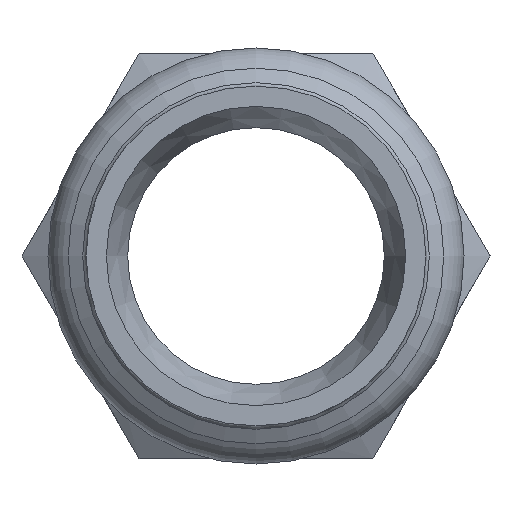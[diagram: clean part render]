
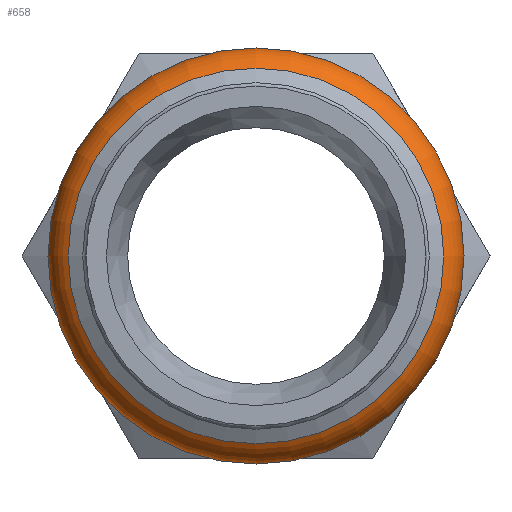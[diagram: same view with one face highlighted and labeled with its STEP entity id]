
A CAD part, left-side view. The second image highlights one B-rep face of the part: STEP entity #658.
In plain terms, the highlighted toroidal (fillet/blend) face has major radius 12.4 mm and minor radius 3 mm.
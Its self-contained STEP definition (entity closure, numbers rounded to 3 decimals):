
#424=CARTESIAN_POINT('',(-27.056,12.979,0.0));
#425=VERTEX_POINT('',#424);
#426=CARTESIAN_POINT('',(-27.056,0.,0.0));
#427=DIRECTION('',(1.0,0.0,0.0));
#428=DIRECTION('',(0.0,-1.0,0.0));
#429=AXIS2_PLACEMENT_3D('',#426,#427,#428);
#430=CIRCLE('',#429,12.979);
#431=EDGE_CURVE('',#425,#425,#430,.T.);
#568=CARTESIAN_POINT('',(-32.598,13.9,0.0));
#569=VERTEX_POINT('',#568);
#570=CARTESIAN_POINT('',(-32.598,0.,0.0));
#571=DIRECTION('',(1.0,0.0,0.0));
#572=DIRECTION('',(0.0,1.0,0.0));
#573=AXIS2_PLACEMENT_3D('',#570,#571,#572);
#574=CIRCLE('',#573,13.9);
#575=EDGE_CURVE('',#569,#569,#574,.T.);
#647=CARTESIAN_POINT('',(-30.,0.,0.0));
#648=DIRECTION('',(1.0,0.,0.0));
#649=DIRECTION('',(0.0,0.0,-1.0));
#650=AXIS2_PLACEMENT_3D('',#647,#648,#649);
#651=TOROIDAL_SURFACE('',#650,12.4,3.);
#652=ORIENTED_EDGE('',*,*,#575,.T.);
#653=EDGE_LOOP('',(#652));
#654=FACE_OUTER_BOUND('',#653,.T.);
#655=ORIENTED_EDGE('',*,*,#431,.F.);
#656=EDGE_LOOP('',(#655));
#657=FACE_BOUND('',#656,.T.);
#658=ADVANCED_FACE('',(#654,#657),#651,.T.);
